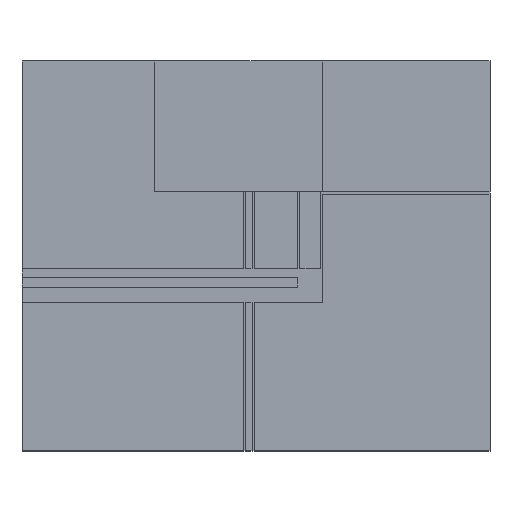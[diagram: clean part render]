
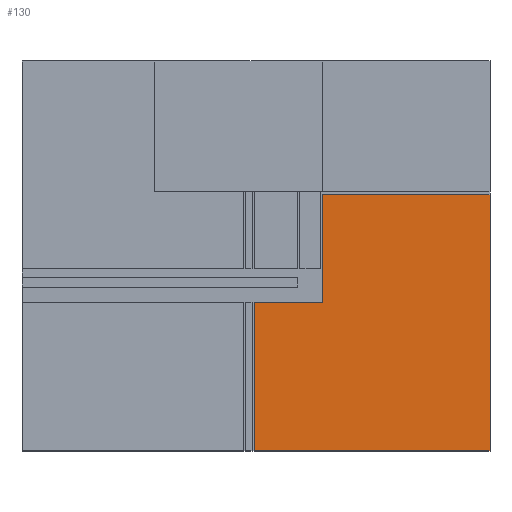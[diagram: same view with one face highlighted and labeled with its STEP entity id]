
A CAD part, top view. The second image highlights one B-rep face of the part: STEP entity #130.
In plain terms, the highlighted planar face has unit normal (0, 0, 1).
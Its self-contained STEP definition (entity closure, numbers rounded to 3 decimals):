
#130=ADVANCED_FACE('',(#245),#1777,.T.);
#245=FACE_OUTER_BOUND('',#360,.T.);
#360=EDGE_LOOP('',(#847,#848,#849,#850,#851,#852,#853,#854,#855));
#847=ORIENTED_EDGE('',*,*,#1171,.T.);
#848=ORIENTED_EDGE('',*,*,#1175,.T.);
#849=ORIENTED_EDGE('',*,*,#1174,.T.);
#850=ORIENTED_EDGE('',*,*,#1172,.T.);
#851=ORIENTED_EDGE('',*,*,#1177,.T.);
#852=ORIENTED_EDGE('',*,*,#1176,.T.);
#853=ORIENTED_EDGE('',*,*,#1173,.T.);
#854=ORIENTED_EDGE('',*,*,#1179,.T.);
#855=ORIENTED_EDGE('',*,*,#1178,.T.);
#1171=EDGE_CURVE('',#1651,#1655,#1450,.T.);
#1172=EDGE_CURVE('',#1652,#1657,#1451,.T.);
#1173=EDGE_CURVE('',#1653,#1659,#1452,.T.);
#1174=EDGE_CURVE('',#1654,#1652,#1453,.T.);
#1175=EDGE_CURVE('',#1655,#1654,#1454,.T.);
#1176=EDGE_CURVE('',#1656,#1653,#1455,.T.);
#1177=EDGE_CURVE('',#1657,#1656,#1456,.T.);
#1178=EDGE_CURVE('',#1658,#1651,#1457,.T.);
#1179=EDGE_CURVE('',#1659,#1658,#1458,.T.);
#1450=B_SPLINE_CURVE_WITH_KNOTS('',1,(#2873,#2874),.UNSPECIFIED.,.F.,.F.,
(2,2),(-225.,0.),.UNSPECIFIED.);
#1451=B_SPLINE_CURVE_WITH_KNOTS('',1,(#2875,#2876),.UNSPECIFIED.,.F.,.F.,
(2,2),(576.777,776.777),.UNSPECIFIED.);
#1452=B_SPLINE_CURVE_WITH_KNOTS('',1,(#2877,#2878),.UNSPECIFIED.,.F.,.F.,
(2,2),(3125.,3825.),.UNSPECIFIED.);
#1453=B_SPLINE_CURVE_WITH_KNOTS('',1,(#2879,#2880),.UNSPECIFIED.,.F.,.F.,
(2,2),(760.,1810.),.UNSPECIFIED.);
#1454=B_SPLINE_CURVE_WITH_KNOTS('',1,(#2881,#2882),.UNSPECIFIED.,.F.,.F.,
(2,2),(0.,760.),.UNSPECIFIED.);
#1455=B_SPLINE_CURVE_WITH_KNOTS('',1,(#2883,#2884),.UNSPECIFIED.,.F.,.F.,
(2,2),(2420.527,2620.527),.UNSPECIFIED.);
#1456=B_SPLINE_CURVE_WITH_KNOTS('',1,(#2885,#2886),.UNSPECIFIED.,.F.,.F.,
(2,2),(776.777,2420.527),.UNSPECIFIED.);
#1457=B_SPLINE_CURVE_WITH_KNOTS('',1,(#2887,#2888),.UNSPECIFIED.,.F.,.F.,
(2,2),(4380.,4505.),.UNSPECIFIED.);
#1458=B_SPLINE_CURVE_WITH_KNOTS('',1,(#2889,#2890,#2891),.UNSPECIFIED.,
 .F.,.F.,(2,1,2),(3825.,4205.,4380.),.UNSPECIFIED.);
#1651=VERTEX_POINT('',#2855);
#1652=VERTEX_POINT('',#2856);
#1653=VERTEX_POINT('',#2857);
#1654=VERTEX_POINT('',#2858);
#1655=VERTEX_POINT('',#2859);
#1656=VERTEX_POINT('',#2860);
#1657=VERTEX_POINT('',#2861);
#1658=VERTEX_POINT('',#2862);
#1659=VERTEX_POINT('',#2863);
#1777=PLANE('',#1980);
#1980=AXIS2_PLACEMENT_3D('',#2844,#2098,$);
#2098=DIRECTION('',(0.,0.,1.));
#2844=CARTESIAN_POINT('',(1472.375,-16.438,0.));
#2855=CARTESIAN_POINT('',(1768.75,950.,0.));
#2856=CARTESIAN_POINT('',(2800.,0.,0.));
#2857=CARTESIAN_POINT('',(2800.,1643.75,0.));
#2858=CARTESIAN_POINT('',(1487.5,0.,0.));
#2859=CARTESIAN_POINT('',(1487.5,950.,0.));
#2860=CARTESIAN_POINT('',(3000.,1643.75,0.));
#2861=CARTESIAN_POINT('',(3000.,0.,0.));
#2862=CARTESIAN_POINT('',(1925.,950.,0.));
#2863=CARTESIAN_POINT('',(1925.,1643.75,0.));
#2873=CARTESIAN_POINT('',(1768.75,950.,0.));
#2874=CARTESIAN_POINT('',(1487.5,950.,0.));
#2875=CARTESIAN_POINT('',(2800.,0.,0.));
#2876=CARTESIAN_POINT('',(3000.,0.,0.));
#2877=CARTESIAN_POINT('',(2800.,1643.75,0.));
#2878=CARTESIAN_POINT('',(1925.,1643.75,0.));
#2879=CARTESIAN_POINT('',(1487.5,0.,0.));
#2880=CARTESIAN_POINT('',(2800.,0.,0.));
#2881=CARTESIAN_POINT('',(1487.5,950.,0.));
#2882=CARTESIAN_POINT('',(1487.5,0.,0.));
#2883=CARTESIAN_POINT('',(3000.,1643.75,0.));
#2884=CARTESIAN_POINT('',(2800.,1643.75,0.));
#2885=CARTESIAN_POINT('',(3000.,0.,0.));
#2886=CARTESIAN_POINT('',(3000.,1643.75,0.));
#2887=CARTESIAN_POINT('',(1925.,950.,0.));
#2888=CARTESIAN_POINT('',(1768.75,950.,0.));
#2889=CARTESIAN_POINT('',(1925.,1643.75,0.));
#2890=CARTESIAN_POINT('',(1925.,1168.75,0.));
#2891=CARTESIAN_POINT('',(1925.,950.,0.));
